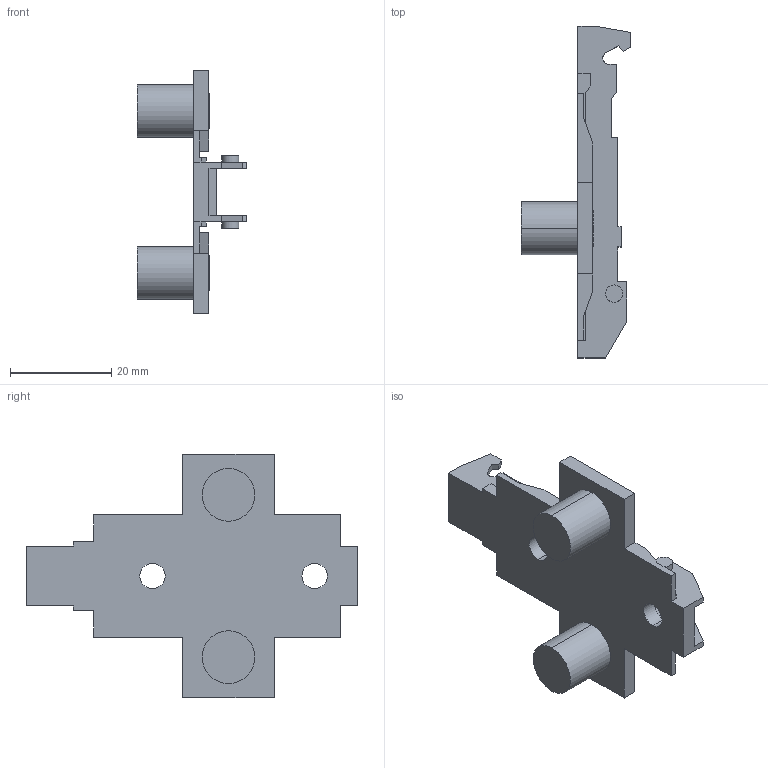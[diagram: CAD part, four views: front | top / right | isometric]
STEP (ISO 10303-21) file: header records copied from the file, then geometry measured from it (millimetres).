
FILE_DESCRIPTION (( 'STEP AP214' ), '1' );
FILE_NAME ('1D_Kreuzmontageplatte 37_32_10mm_Dübel_0.step', '2018-10-02T12:38:24', ( '' ), ( '' ), 'SwSTEP 2.0', 'SolidWorks 2017', '' );
FILE_SCHEMA (( 'AUTOMOTIVE_DESIGN' ));
Length unit declared in the file: millimetre
Products named in the file (1): 1D_Kreuzmontageplatte 37_32_10mm_Dübel_0
Bounding box: 21.7 x 65.5 x 48 mm (x, y, z)
Volume: 7683.3 mm3; surface area: 6633.4 mm2
Topology: 1 solids, 1 shells, 114 faces, 314 edges, 208 vertices
Faces by surface type: plane 88, cylinder 22, cone 4
Entity records: 3636 total; most frequent: CARTESIAN_POINT 637, ORIENTED_EDGE 628, DIRECTION 592, EDGE_CURVE 314, VECTOR 266, LINE 266, VERTEX_POINT 208, AXIS2_PLACEMENT_3D 163
